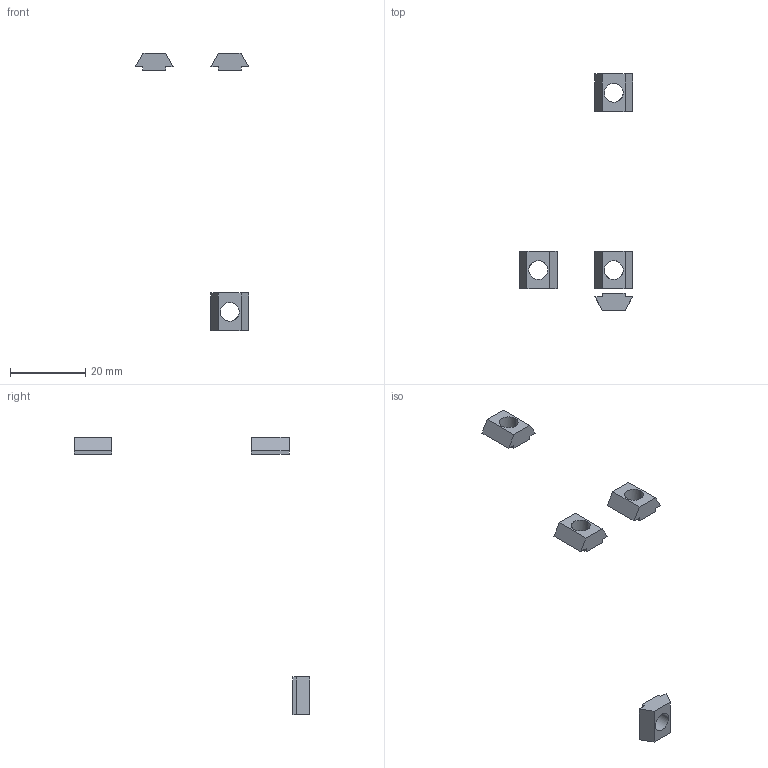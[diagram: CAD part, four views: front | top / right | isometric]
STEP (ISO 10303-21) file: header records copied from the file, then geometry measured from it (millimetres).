
FILE_DESCRIPTION(/* description */ (''),/* implementation_level */ '2;1');
FILE_NAME(/* name */ 'X-6938~1',/* time_stamp */ '2014-02-14T19:44:35+01:00',/* author */ (''),/* organization */ (''),/* preprocessor_version */ 'ST-DEVELOPER v14',/* originating_system */ '',/* authorisation */ '');
FILE_SCHEMA (('AUTOMOTIVE_DESIGN'));
Length unit declared in the file: millimetre
Products named in the file (2): Document; tslot nut, pre, M5
Assembly tree (4 placements, depth 2):
  Document
    tslot nut, pre, M5  x4
Bounding box: 30 x 62.5 x 73.5 mm (x, y, z)
Volume: 1006.1 mm3; surface area: 1439.8 mm2
Topology: 4 solids, 4 shells, 48 faces, 120 edges, 80 vertices
Faces by surface type: plane 40, bspline 8
Entity records: 826 total; most frequent: CARTESIAN_POINT 333, B_SPLINE_CURVE_WITH_KNOTS 84, ORIENTED_EDGE 60, PCURVE 60, DEFINITIONAL_REPRESENTATION 60, SURFACE_CURVE 30, EDGE_CURVE 30, DIRECTION 24
